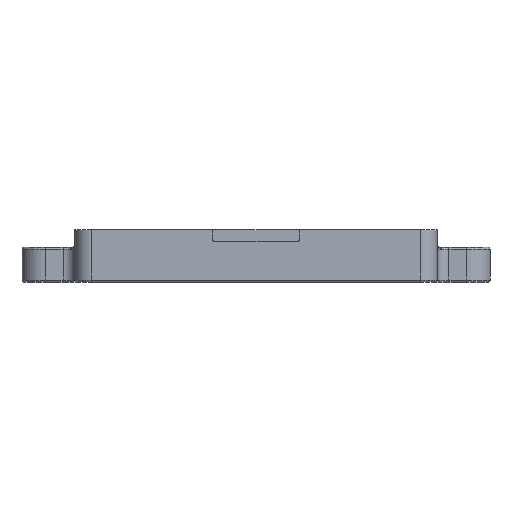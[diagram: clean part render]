
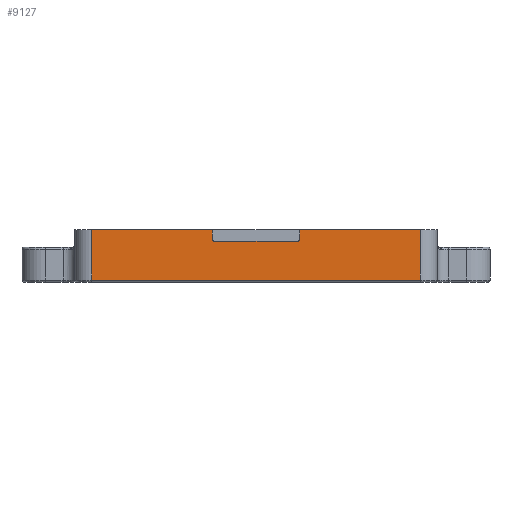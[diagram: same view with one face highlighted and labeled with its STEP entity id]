
A CAD part, left-side view. The second image highlights one B-rep face of the part: STEP entity #9127.
In plain terms, the highlighted planar face has unit normal (-1, 0, 0).
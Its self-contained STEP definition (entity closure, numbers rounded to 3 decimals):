
#526=CIRCLE('',#9569,0.5);
#528=CIRCLE('',#9573,0.5);
#1037=PLANE('',#10397);
#1624=FACE_OUTER_BOUND('',#2246,.T.);
#2246=EDGE_LOOP('',(#8221,#8222,#8223,#8224,#8225,#8226,#8227,#8228,#8229,
#8230));
#2464=LINE('',#14817,#3077);
#2494=LINE('',#14968,#3107);
#2497=LINE('',#15014,#3110);
#2503=LINE('',#15029,#3116);
#2801=LINE('',#16480,#3414);
#2807=LINE('',#16544,#3420);
#2859=LINE('',#16762,#3472);
#2860=LINE('',#16763,#3473);
#3077=VECTOR('',#11267,10.);
#3107=VECTOR('',#11461,10.);
#3110=VECTOR('',#11508,10.);
#3116=VECTOR('',#11522,10.);
#3414=VECTOR('',#13112,10.);
#3420=VECTOR('',#13210,10.);
#3472=VECTOR('',#13522,10.);
#3473=VECTOR('',#13523,10.);
#3831=VERTEX_POINT('',#14810);
#3833=VERTEX_POINT('',#14815);
#3872=VERTEX_POINT('',#14967);
#3889=VERTEX_POINT('',#15004);
#3890=VERTEX_POINT('',#15005);
#3893=VERTEX_POINT('',#15013);
#3895=VERTEX_POINT('',#15019);
#3896=VERTEX_POINT('',#15020);
#4203=VERTEX_POINT('',#16478);
#4215=VERTEX_POINT('',#16542);
#4700=EDGE_CURVE('',#3833,#3831,#2464,.T.);
#4778=EDGE_CURVE('',#3831,#3872,#2494,.T.);
#4796=EDGE_CURVE('',#3889,#3890,#526,.T.);
#4800=EDGE_CURVE('',#3893,#3890,#2497,.T.);
#4803=EDGE_CURVE('',#3895,#3896,#528,.T.);
#4808=EDGE_CURVE('',#3889,#3896,#2503,.T.);
#5463=EDGE_CURVE('',#4203,#3833,#2801,.T.);
#5495=EDGE_CURVE('',#3895,#4215,#2807,.T.);
#5583=EDGE_CURVE('',#3893,#4203,#2859,.T.);
#5584=EDGE_CURVE('',#3872,#4215,#2860,.T.);
#8221=ORIENTED_EDGE('',*,*,#4700,.F.);
#8222=ORIENTED_EDGE('',*,*,#5463,.F.);
#8223=ORIENTED_EDGE('',*,*,#5583,.F.);
#8224=ORIENTED_EDGE('',*,*,#4800,.T.);
#8225=ORIENTED_EDGE('',*,*,#4796,.F.);
#8226=ORIENTED_EDGE('',*,*,#4808,.T.);
#8227=ORIENTED_EDGE('',*,*,#4803,.F.);
#8228=ORIENTED_EDGE('',*,*,#5495,.T.);
#8229=ORIENTED_EDGE('',*,*,#5584,.F.);
#8230=ORIENTED_EDGE('',*,*,#4778,.F.);
#9127=ADVANCED_FACE('',(#1624),#1037,.T.);
#9569=AXIS2_PLACEMENT_3D('',#15006,#11500,#11501);
#9573=AXIS2_PLACEMENT_3D('',#15021,#11513,#11514);
#10397=AXIS2_PLACEMENT_3D('',#16761,#13520,#13521);
#11267=DIRECTION('',(0.,1.,0.));
#11461=DIRECTION('',(0.,0.,1.));
#11500=DIRECTION('center_axis',(-1.,0.,0.));
#11501=DIRECTION('ref_axis',(0.,-0.707,-0.707));
#11508=DIRECTION('',(0.,0.,-1.));
#11513=DIRECTION('center_axis',(-1.,0.,0.));
#11514=DIRECTION('ref_axis',(0.,0.707,-0.707));
#11522=DIRECTION('',(0.,1.,0.));
#13112=DIRECTION('',(0.,0.,-1.));
#13210=DIRECTION('',(0.,0.,1.));
#13520=DIRECTION('center_axis',(-1.,0.,0.));
#13521=DIRECTION('ref_axis',(0.,1.,0.));
#13522=DIRECTION('',(0.,-1.,0.));
#13523=DIRECTION('',(0.,-1.,0.));
#14810=CARTESIAN_POINT('',(-49.4,28.,-8.6));
#14815=CARTESIAN_POINT('',(-49.4,-28.,-8.6));
#14817=CARTESIAN_POINT('',(-49.4,-15.45,-8.6));
#14967=CARTESIAN_POINT('',(-49.4,28.,0.));
#14968=CARTESIAN_POINT('',(-49.4,28.,0.));
#15004=CARTESIAN_POINT('',(-49.4,-7.,-2.));
#15005=CARTESIAN_POINT('',(-49.4,-7.5,-1.5));
#15006=CARTESIAN_POINT('Origin',(-49.4,-7.,-1.5));
#15013=CARTESIAN_POINT('',(-49.4,-7.5,0.));
#15014=CARTESIAN_POINT('',(-49.4,-7.5,0.));
#15019=CARTESIAN_POINT('',(-49.4,7.5,-1.5));
#15020=CARTESIAN_POINT('',(-49.4,7.,-2.));
#15021=CARTESIAN_POINT('Origin',(-49.4,7.,-1.5));
#15029=CARTESIAN_POINT('',(-49.4,-19.2,-2.));
#16478=CARTESIAN_POINT('',(-49.4,-28.,0.));
#16480=CARTESIAN_POINT('',(-49.4,-28.,0.));
#16542=CARTESIAN_POINT('',(-49.4,7.5,0.));
#16544=CARTESIAN_POINT('',(-49.4,7.5,-1.));
#16761=CARTESIAN_POINT('Origin',(-49.4,-30.9,0.));
#16762=CARTESIAN_POINT('',(-49.4,30.9,0.));
#16763=CARTESIAN_POINT('',(-49.4,30.9,0.));
